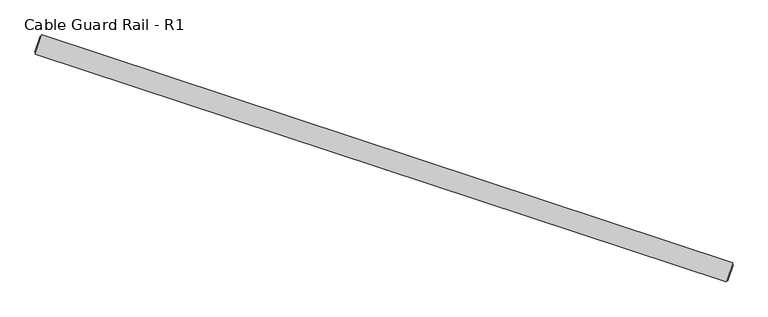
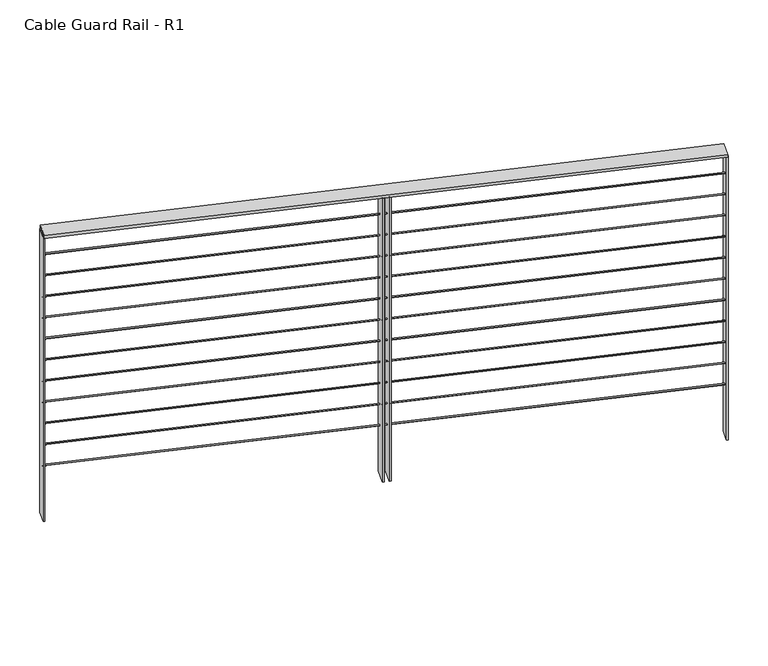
"""IFC4 building model written with IfcOpenShell, lengths in millimetres: railing geometry, Cable Guard Rail - R1."""

from ifc_helpers import new_model, si_unit, point, frame, origin, origin_2d, place, context, project, spatial, polyline, circle_curve, trimmed, segment, composite_curve, outline, extrude, source, transform, mapped, element, save


def cable_guard_rail_r1_da11520e(model_context):
    return source(origin(), model_context, "Body", "SweptSolid", [
        extrude(outline(polyline([(50658.0268458, 188414.5098726), (50634.1244109, 188342.1557877), (48024.9235876, 189204.1147627), (48048.8260225, 189276.4688477), (50658.0268458, 188414.5098726)])), frame((0.0, 0.0, 294906.7), z_axis=(0.0, 0.0, 1.0), x_axis=(1.0, 0.0, 0.0)), (0.0, 0.0, 1.0), 12.7),
        extrude(outline(composite_curve([segment(trimmed(circle_curve(origin_2d(), 3.175), [point((-3.175, 0.0))], [point((3.1750001, 0.0))], False, "CARTESIAN"), True, "CONTINUOUS"), segment(trimmed(circle_curve(origin_2d(), 3.175), [point((3.1750001, 0.0))], [point((-3.175, 0.0))], False, "CARTESIAN"), True, "CONTINUOUS")], self_intersect=False)), frame((50646.0756284, 188378.3328301, 294805.1), z_axis=(-0.9495286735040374, 0.31368024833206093, 0.0), x_axis=(0.31368024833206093, 0.9495286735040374, 0.0)), (0.0, 0.0, 1.0), 2747.890502),
        extrude(outline(composite_curve([segment(trimmed(circle_curve(origin_2d(), 3.175), [point((-3.175, 0.0))], [point((3.1750001, 0.0))], False, "CARTESIAN"), True, "CONTINUOUS"), segment(trimmed(circle_curve(origin_2d(), 3.175), [point((3.1750001, 0.0))], [point((-3.175, 0.0))], False, "CARTESIAN"), True, "CONTINUOUS")], self_intersect=False)), frame((50646.0756284, 188378.3328301, 294703.5), z_axis=(-0.9495286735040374, 0.31368024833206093, 0.0), x_axis=(0.31368024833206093, 0.9495286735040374, 0.0)), (0.0, 0.0, 1.0), 2747.890502),
        extrude(outline(composite_curve([segment(trimmed(circle_curve(origin_2d(), 3.175), [point((-3.175, 0.0))], [point((3.1750001, 0.0))], False, "CARTESIAN"), True, "CONTINUOUS"), segment(trimmed(circle_curve(origin_2d(), 3.175), [point((3.1750001, 0.0))], [point((-3.175, 0.0))], False, "CARTESIAN"), True, "CONTINUOUS")], self_intersect=False)), frame((50646.0756284, 188378.3328301, 294601.9), z_axis=(-0.9495286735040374, 0.31368024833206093, 0.0), x_axis=(0.31368024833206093, 0.9495286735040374, 0.0)), (0.0, 0.0, 1.0), 2747.890502),
        extrude(outline(composite_curve([segment(trimmed(circle_curve(origin_2d(), 3.175), [point((-3.175, 0.0))], [point((3.1750001, 0.0))], False, "CARTESIAN"), True, "CONTINUOUS"), segment(trimmed(circle_curve(origin_2d(), 3.175), [point((3.1750001, 0.0))], [point((-3.175, 0.0))], False, "CARTESIAN"), True, "CONTINUOUS")], self_intersect=False)), frame((50646.0756284, 188378.3328301, 294500.3), z_axis=(-0.9495286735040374, 0.31368024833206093, 0.0), x_axis=(0.31368024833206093, 0.9495286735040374, 0.0)), (0.0, 0.0, 1.0), 2747.890502),
        extrude(outline(composite_curve([segment(trimmed(circle_curve(origin_2d(), 3.175), [point((-3.175, 0.0))], [point((3.1750001, 0.0))], False, "CARTESIAN"), True, "CONTINUOUS"), segment(trimmed(circle_curve(origin_2d(), 3.175), [point((3.1750001, 0.0))], [point((-3.175, 0.0))], False, "CARTESIAN"), True, "CONTINUOUS")], self_intersect=False)), frame((50646.0756284, 188378.3328301, 294398.7), z_axis=(-0.9495286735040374, 0.31368024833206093, 0.0), x_axis=(0.31368024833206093, 0.9495286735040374, 0.0)), (0.0, 0.0, 1.0), 2747.890502),
        extrude(outline(composite_curve([segment(trimmed(circle_curve(origin_2d(), 3.175), [point((-3.175, 0.0))], [point((3.1750001, 0.0))], False, "CARTESIAN"), True, "CONTINUOUS"), segment(trimmed(circle_curve(origin_2d(), 3.175), [point((3.1750001, 0.0))], [point((-3.175, 0.0))], False, "CARTESIAN"), True, "CONTINUOUS")], self_intersect=False)), frame((50646.0756284, 188378.3328301, 294297.1), z_axis=(-0.9495286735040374, 0.31368024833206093, 0.0), x_axis=(0.31368024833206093, 0.9495286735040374, 0.0)), (0.0, 0.0, 1.0), 2747.890502),
        extrude(outline(composite_curve([segment(trimmed(circle_curve(origin_2d(), 3.175), [point((-3.175, 0.0))], [point((3.1750001, 0.0))], False, "CARTESIAN"), True, "CONTINUOUS"), segment(trimmed(circle_curve(origin_2d(), 3.175), [point((3.1750001, 0.0))], [point((-3.175, 0.0))], False, "CARTESIAN"), True, "CONTINUOUS")], self_intersect=False)), frame((50646.0756284, 188378.3328301, 294195.5), z_axis=(-0.9495286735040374, 0.31368024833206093, 0.0), x_axis=(0.31368024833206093, 0.9495286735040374, 0.0)), (0.0, 0.0, 1.0), 2747.890502),
        extrude(outline(composite_curve([segment(trimmed(circle_curve(origin_2d(), 3.175), [point((-3.175, 0.0))], [point((3.1750001, 0.0))], False, "CARTESIAN"), True, "CONTINUOUS"), segment(trimmed(circle_curve(origin_2d(), 3.175), [point((3.1750001, 0.0))], [point((-3.175, 0.0))], False, "CARTESIAN"), True, "CONTINUOUS")], self_intersect=False)), frame((50646.0756284, 188378.3328301, 294093.9), z_axis=(-0.9495286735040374, 0.31368024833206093, 0.0), x_axis=(0.31368024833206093, 0.9495286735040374, 0.0)), (0.0, 0.0, 1.0), 2747.890502),
        extrude(outline(composite_curve([segment(trimmed(circle_curve(origin_2d(), 3.175), [point((-3.175, 0.0))], [point((3.1750001, 0.0))], False, "CARTESIAN"), True, "CONTINUOUS"), segment(trimmed(circle_curve(origin_2d(), 3.175), [point((3.1750001, 0.0))], [point((-3.175, 0.0))], False, "CARTESIAN"), True, "CONTINUOUS")], self_intersect=False)), frame((50646.0756284, 188378.3328301, 293992.3), z_axis=(-0.9495286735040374, 0.31368024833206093, 0.0), x_axis=(0.31368024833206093, 0.9495286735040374, 0.0)), (0.0, 0.0, 1.0), 2747.890502),
        extrude(outline(composite_curve([segment(trimmed(circle_curve(origin_2d(), 3.175), [point((-3.175, 0.0))], [point((3.1750001, 0.0))], False, "CARTESIAN"), True, "CONTINUOUS"), segment(trimmed(circle_curve(origin_2d(), 3.175), [point((3.1750001, 0.0))], [point((-3.175, 0.0))], False, "CARTESIAN"), True, "CONTINUOUS")], self_intersect=False)), frame((50646.0756284, 188378.3328301, 293890.7), z_axis=(-0.9495286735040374, 0.31368024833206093, 0.0), x_axis=(0.31368024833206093, 0.9495286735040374, 0.0)), (0.0, 0.0, 1.0), 2747.890502),
        extrude(outline(composite_curve([segment(trimmed(circle_curve(origin_2d(), 3.175), [point((-3.175, 0.0))], [point((3.1750001, 0.0))], False, "CARTESIAN"), True, "CONTINUOUS"), segment(trimmed(circle_curve(origin_2d(), 3.175), [point((3.1750001, 0.0))], [point((-3.175, 0.0))], False, "CARTESIAN"), True, "CONTINUOUS")], self_intersect=False)), frame((50646.0756284, 188378.3328301, 293789.1), z_axis=(-0.9495286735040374, 0.31368024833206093, 0.0), x_axis=(0.31368024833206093, 0.9495286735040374, 0.0)), (0.0, 0.0, 1.0), 2747.890502),
        extrude(outline(polyline([(49350.627274, 188766.1637317), (49341.5830134, 188769.1515361), (49365.4854483, 188841.505621), (49374.5297089, 188838.5178166), (49350.627274, 188766.1637317)])), frame((0.0, 0.0, 293541.45), z_axis=(0.0, 0.0, 1.0), x_axis=(1.0, 0.0, 0.0)), (0.0, 0.0, 1.0), 1365.25),
        extrude(outline(polyline([(49323.4944922, 188775.1271448), (49314.4960324, 188778.0998187), (49338.3984674, 188850.4539036), (49347.3969271, 188847.4812297), (49323.4944922, 188775.1271448)])), frame((0.0, 0.0, 293541.45), z_axis=(0.0, 0.0, 1.0), x_axis=(1.0, 0.0, 0.0)), (0.0, 0.0, 1.0), 1365.25),
        extrude(outline(polyline([(48029.9302107, 189209.148335), (48023.9007036, 189211.1402046), (48043.8193994, 189271.4352754), (48049.8489065, 189269.4434058), (48029.9302107, 189209.148335)])), frame((0.0, 0.0, 293541.45), z_axis=(0.0, 0.0, 1.0), x_axis=(1.0, 0.0, 0.0)), (0.0, 0.0, 1.0), 1365.25),
        extrude(outline(polyline([(50639.131034, 188347.18936), (50633.1015269, 188349.1812296), (50653.0202227, 188409.4763003), (50659.0497298, 188407.4844307), (50639.131034, 188347.18936)])), frame((0.0, 0.0, 293541.45), z_axis=(0.0, 0.0, 1.0), x_axis=(1.0, 0.0, 0.0)), (0.0, 0.0, 1.0), 1365.25),
    ])


if __name__ == "__main__":
    model = new_model("IFC4")
    model_context = context("Model", 3, world=origin())
    ifc_project = project(units=[si_unit("LENGTHUNIT", "METRE", prefix="MILLI")], contexts=[model_context])
    site = spatial("IfcSite", under=ifc_project)
    building = spatial("IfcBuilding", under=site)
    placement = place(None, origin())
    cable_guard_rail_r1_shape = cable_guard_rail_r1_da11520e(model_context)
    element("IfcRailing", 1, ObjectType="Cable Guard Rail - R1", at=placement, inside=building, context=model_context, shape_type="MappedRepresentation", body=[
        mapped(cable_guard_rail_r1_shape, transform((0.0, 0.0, 0.0), x_axis=(1.0, 0.0, 0.0), y_axis=(0.0, 1.0, 0.0), z_axis=(0.0, 0.0, 1.0))),
    ])
    save(model, "model.ifc")
